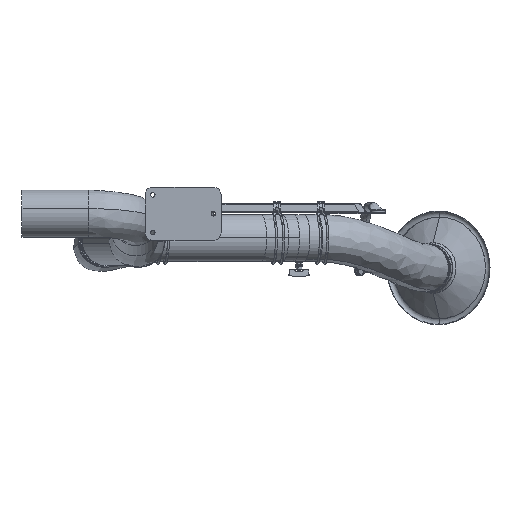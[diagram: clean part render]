
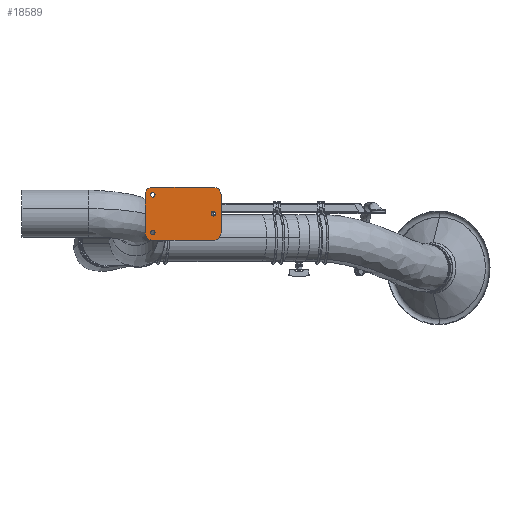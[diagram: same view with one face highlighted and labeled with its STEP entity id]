
A CAD part, left-side view. The second image highlights one B-rep face of the part: STEP entity #18589.
In plain terms, the highlighted planar face has unit normal (-1, 0, 0).
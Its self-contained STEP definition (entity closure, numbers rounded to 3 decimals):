
#17523=CARTESIAN_POINT('',(-400.,50.15,50.));
#17524=DIRECTION('',(-1.,0.,0.));
#17525=DIRECTION('',(0.,0.,1.));
#17526=AXIS2_PLACEMENT_3D('',#17523,#17524,#17525);
#17531=DIRECTION('',(0.,1.,0.));
#17532=VECTOR('',#17531,160.);
#17533=CARTESIAN_POINT('',(-400.,-109.85,70.));
#17534=LINE('',#17533,#17532);
#17538=CARTESIAN_POINT('',(-400.,-109.85,50.));
#17539=DIRECTION('',(-1.,0.,0.));
#17540=DIRECTION('',(0.,-1.,0.));
#17541=AXIS2_PLACEMENT_3D('',#17538,#17539,#17540);
#17546=DIRECTION('',(0.,0.,1.));
#17547=VECTOR('',#17546,100.);
#17548=CARTESIAN_POINT('',(-400.,-129.85,-50.));
#17549=LINE('',#17548,#17547);
#17553=CARTESIAN_POINT('',(-400.,-109.85,-50.));
#17554=DIRECTION('',(-1.,0.,0.));
#17555=DIRECTION('',(0.,0.,-1.));
#17556=AXIS2_PLACEMENT_3D('',#17553,#17554,#17555);
#17561=DIRECTION('',(0.,-1.,0.));
#17562=VECTOR('',#17561,160.);
#17563=CARTESIAN_POINT('',(-400.,50.15,-70.));
#17564=LINE('',#17563,#17562);
#17568=CARTESIAN_POINT('',(-400.,50.15,-50.));
#17569=DIRECTION('',(-1.,0.,0.));
#17570=DIRECTION('',(0.,1.,0.));
#17571=AXIS2_PLACEMENT_3D('',#17568,#17569,#17570);
#17576=DIRECTION('',(0.,0.,-1.));
#17577=VECTOR('',#17576,100.);
#17578=CARTESIAN_POINT('',(-400.,70.15,50.));
#17579=LINE('',#17578,#17577);
#17583=CARTESIAN_POINT('',(-400.,-109.85,0.));
#17584=DIRECTION('',(1.,0.,0.));
#17585=DIRECTION('',(0.,0.,1.));
#17586=AXIS2_PLACEMENT_3D('',#17583,#17584,#17585);
#17591=CARTESIAN_POINT('',(-400.,-109.85,0.));
#17592=DIRECTION('',(1.,0.,0.));
#17593=DIRECTION('',(0.,0.,-1.));
#17594=AXIS2_PLACEMENT_3D('',#17591,#17592,#17593);
#17599=CARTESIAN_POINT('',(-400.,50.15,50.));
#17600=DIRECTION('',(1.,0.,0.));
#17601=DIRECTION('',(0.,0.,1.));
#17602=AXIS2_PLACEMENT_3D('',#17599,#17600,#17601);
#17607=CARTESIAN_POINT('',(-400.,50.15,50.));
#17608=DIRECTION('',(1.,0.,0.));
#17609=DIRECTION('',(0.,0.,-1.));
#17610=AXIS2_PLACEMENT_3D('',#17607,#17608,#17609);
#17615=CARTESIAN_POINT('',(-400.,50.15,-50.));
#17616=DIRECTION('',(1.,0.,0.));
#17617=DIRECTION('',(0.,0.,1.));
#17618=AXIS2_PLACEMENT_3D('',#17615,#17616,#17617);
#17623=CARTESIAN_POINT('',(-400.,50.15,-50.));
#17624=DIRECTION('',(1.,0.,0.));
#17625=DIRECTION('',(0.,0.,-1.));
#17626=AXIS2_PLACEMENT_3D('',#17623,#17624,#17625);
#18008=CARTESIAN_POINT('',(-400.,50.15,-44.));
#18009=CARTESIAN_POINT('',(-400.,50.15,-56.));
#18010=VERTEX_POINT('',#18008);
#18011=VERTEX_POINT('',#18009);
#18012=CARTESIAN_POINT('',(-400.,50.15,56.));
#18013=CARTESIAN_POINT('',(-400.,50.15,44.));
#18014=VERTEX_POINT('',#18012);
#18015=VERTEX_POINT('',#18013);
#18016=CARTESIAN_POINT('',(-400.,-109.85,6.));
#18017=CARTESIAN_POINT('',(-400.,-109.85,-6.));
#18018=VERTEX_POINT('',#18016);
#18019=VERTEX_POINT('',#18017);
#18020=CARTESIAN_POINT('',(-400.,50.15,70.));
#18021=CARTESIAN_POINT('',(-400.,70.15,50.));
#18022=VERTEX_POINT('',#18020);
#18023=VERTEX_POINT('',#18021);
#18024=CARTESIAN_POINT('',(-400.,70.15,-50.));
#18025=VERTEX_POINT('',#18024);
#18026=CARTESIAN_POINT('',(-400.,50.15,-70.));
#18027=VERTEX_POINT('',#18026);
#18028=CARTESIAN_POINT('',(-400.,-109.85,-70.));
#18029=VERTEX_POINT('',#18028);
#18030=CARTESIAN_POINT('',(-400.,-129.85,-50.));
#18031=VERTEX_POINT('',#18030);
#18032=CARTESIAN_POINT('',(-400.,-129.85,50.));
#18033=VERTEX_POINT('',#18032);
#18034=CARTESIAN_POINT('',(-400.,-109.85,70.));
#18035=VERTEX_POINT('',#18034);
#18549=CARTESIAN_POINT('',(-400.,0.,-25.));
#18550=DIRECTION('',(-1.,0.,0.));
#18551=DIRECTION('',(0.,0.,1.));
#18552=AXIS2_PLACEMENT_3D('',#18549,#18550,#18551);
#18553=PLANE('',#18552);
#18554=ORIENTED_EDGE('',*,*,#18539,.F.);
#18556=ORIENTED_EDGE('',*,*,#18555,.F.);
#18558=ORIENTED_EDGE('',*,*,#18557,.F.);
#18560=ORIENTED_EDGE('',*,*,#18559,.F.);
#18562=ORIENTED_EDGE('',*,*,#18561,.F.);
#18564=ORIENTED_EDGE('',*,*,#18563,.F.);
#18566=ORIENTED_EDGE('',*,*,#18565,.F.);
#18568=ORIENTED_EDGE('',*,*,#18567,.F.);
#18569=EDGE_LOOP('',(#18554,#18556,#18558,#18560,#18562,#18564,#18566,#18568));
#18570=FACE_OUTER_BOUND('',#18569,.F.);
#18572=ORIENTED_EDGE('',*,*,#18571,.F.);
#18574=ORIENTED_EDGE('',*,*,#18573,.F.);
#18575=EDGE_LOOP('',(#18572,#18574));
#18576=FACE_BOUND('',#18575,.F.);
#18578=ORIENTED_EDGE('',*,*,#18577,.F.);
#18580=ORIENTED_EDGE('',*,*,#18579,.F.);
#18581=EDGE_LOOP('',(#18578,#18580));
#18582=FACE_BOUND('',#18581,.F.);
#18584=ORIENTED_EDGE('',*,*,#18583,.F.);
#18586=ORIENTED_EDGE('',*,*,#18585,.F.);
#18587=EDGE_LOOP('',(#18584,#18586));
#18588=FACE_BOUND('',#18587,.F.);
#17527=CIRCLE('',#17526,20.);
#17542=CIRCLE('',#17541,20.);
#17557=CIRCLE('',#17556,20.);
#17572=CIRCLE('',#17571,20.);
#17587=CIRCLE('',#17586,6.);
#17595=CIRCLE('',#17594,6.);
#17603=CIRCLE('',#17602,6.);
#17611=CIRCLE('',#17610,6.);
#17619=CIRCLE('',#17618,6.);
#17627=CIRCLE('',#17626,6.);
#18539=EDGE_CURVE('',#18022,#18023,#17527,.T.);
#18555=EDGE_CURVE('',#18035,#18022,#17534,.T.);
#18557=EDGE_CURVE('',#18033,#18035,#17542,.T.);
#18559=EDGE_CURVE('',#18031,#18033,#17549,.T.);
#18561=EDGE_CURVE('',#18029,#18031,#17557,.T.);
#18563=EDGE_CURVE('',#18027,#18029,#17564,.T.);
#18565=EDGE_CURVE('',#18025,#18027,#17572,.T.);
#18567=EDGE_CURVE('',#18023,#18025,#17579,.T.);
#18571=EDGE_CURVE('',#18018,#18019,#17587,.T.);
#18573=EDGE_CURVE('',#18019,#18018,#17595,.T.);
#18577=EDGE_CURVE('',#18014,#18015,#17603,.T.);
#18579=EDGE_CURVE('',#18015,#18014,#17611,.T.);
#18583=EDGE_CURVE('',#18010,#18011,#17619,.T.);
#18585=EDGE_CURVE('',#18011,#18010,#17627,.T.);
#18589=ADVANCED_FACE('',(#18570,#18576,#18582,#18588),#18553,.T.);
